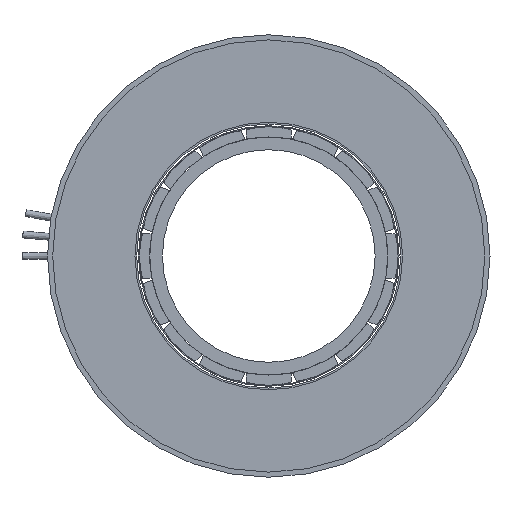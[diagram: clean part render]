
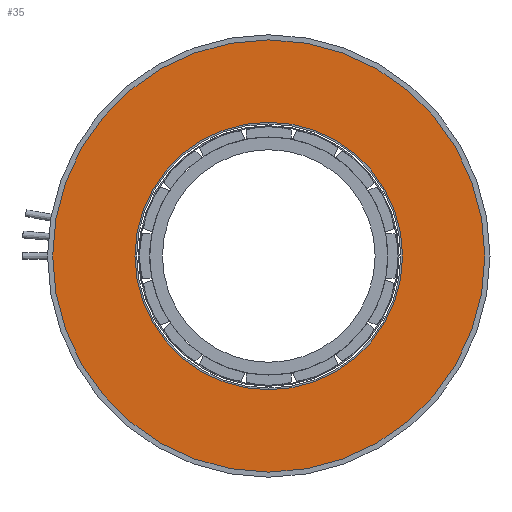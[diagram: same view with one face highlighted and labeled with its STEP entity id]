
A CAD part, left-side view. The second image highlights one B-rep face of the part: STEP entity #35.
In plain terms, the highlighted planar face has unit normal (-1, 0, 0).
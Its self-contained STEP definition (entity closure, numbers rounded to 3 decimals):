
#35 = ADVANCED_FACE ( 'NONE', ( #1776, #1572 ), #1940, .F. ) ;
#92 = CARTESIAN_POINT ( 'NONE',  ( 0., 0., 0. ) ) ;
#147 = AXIS2_PLACEMENT_3D ( 'NONE', #2806, #626, #2794 ) ;
#160 = VERTEX_POINT ( 'NONE', #1746 ) ;
#272 = VERTEX_POINT ( 'NONE', #672 ) ;
#331 = VERTEX_POINT ( 'NONE', #889 ) ;
#357 = CIRCLE ( 'NONE', #147, 39. ) ;
#524 = ORIENTED_EDGE ( 'NONE', *, *, #2239, .T. ) ;
#626 = DIRECTION ( 'NONE',  ( -1., 0., 0. ) ) ;
#672 = CARTESIAN_POINT ( 'NONE',  ( 0., 0., -63. ) ) ;
#689 = DIRECTION ( 'NONE',  ( -1., 0., 0. ) ) ;
#692 = CIRCLE ( 'NONE', #1961, 63. ) ;
#702 = EDGE_LOOP ( 'NONE', ( #2206, #524 ) ) ;
#889 = CARTESIAN_POINT ( 'NONE',  ( 0., 0., 39. ) ) ;
#1091 = CARTESIAN_POINT ( 'NONE',  ( 0., 0., 0. ) ) ;
#1310 = CARTESIAN_POINT ( 'NONE',  ( 0., 63., 0. ) ) ;
#1380 = CIRCLE ( 'NONE', #2164, 63. ) ;
#1416 = AXIS2_PLACEMENT_3D ( 'NONE', #1978, #2658, #1997 ) ;
#1505 = DIRECTION ( 'NONE',  ( 0., 0., -1. ) ) ;
#1572 = FACE_OUTER_BOUND ( 'NONE', #702, .T. ) ;
#1619 = DIRECTION ( 'NONE',  ( 0., 0., 1. ) ) ;
#1679 = EDGE_LOOP ( 'NONE', ( #2345, #1749 ) ) ;
#1702 = EDGE_CURVE ( 'NONE', #160, #272, #692, .T. ) ;
#1746 = CARTESIAN_POINT ( 'NONE',  ( 0., 0., 63. ) ) ;
#1749 = ORIENTED_EDGE ( 'NONE', *, *, #2221, .F. ) ;
#1752 = VERTEX_POINT ( 'NONE', #2073 ) ;
#1776 = FACE_BOUND ( 'NONE', #1679, .T. ) ;
#1916 = AXIS2_PLACEMENT_3D ( 'NONE', #1310, #2608, #1505 ) ;
#1940 = PLANE ( 'NONE',  #1916 ) ;
#1961 = AXIS2_PLACEMENT_3D ( 'NONE', #92, #2507, #1619 ) ;
#1978 = CARTESIAN_POINT ( 'NONE',  ( 0., 0., 0. ) ) ;
#1983 = EDGE_CURVE ( 'NONE', #331, #1752, #357, .T. ) ;
#1997 = DIRECTION ( 'NONE',  ( 0., 0., 1. ) ) ;
#2073 = CARTESIAN_POINT ( 'NONE',  ( 0., 0., -39. ) ) ;
#2164 = AXIS2_PLACEMENT_3D ( 'NONE', #1091, #689, #2214 ) ;
#2206 = ORIENTED_EDGE ( 'NONE', *, *, #1702, .T. ) ;
#2214 = DIRECTION ( 'NONE',  ( 0., 0., 1. ) ) ;
#2221 = EDGE_CURVE ( 'NONE', #1752, #331, #2287, .T. ) ;
#2239 = EDGE_CURVE ( 'NONE', #272, #160, #1380, .T. ) ;
#2287 = CIRCLE ( 'NONE', #1416, 39. ) ;
#2345 = ORIENTED_EDGE ( 'NONE', *, *, #1983, .F. ) ;
#2507 = DIRECTION ( 'NONE',  ( -1., 0., 0. ) ) ;
#2608 = DIRECTION ( 'NONE',  ( 1., 0., 0. ) ) ;
#2658 = DIRECTION ( 'NONE',  ( -1., 0., 0. ) ) ;
#2794 = DIRECTION ( 'NONE',  ( 0., 0., 1. ) ) ;
#2806 = CARTESIAN_POINT ( 'NONE',  ( 0., 0., 0. ) ) ;
